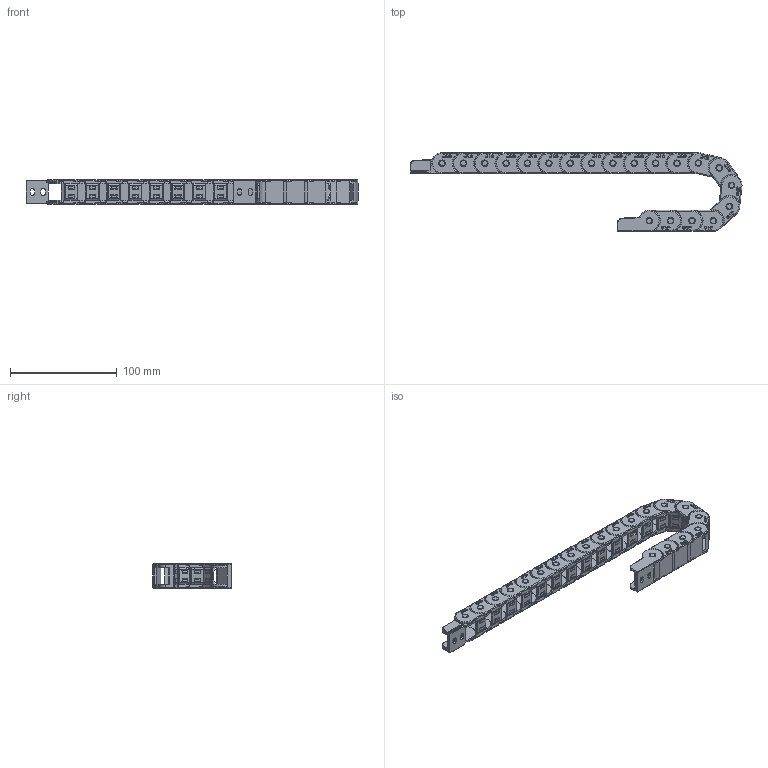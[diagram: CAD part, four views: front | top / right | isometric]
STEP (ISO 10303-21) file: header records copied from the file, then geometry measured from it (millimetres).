
FILE_DESCRIPTION (( 'STEP AP203' ), '1' );
FILE_NAME ('5F-J15BF.1.15N-3D半封闭内开组件图.STEP', '2017-04-05T05:34:03', ( 'china' ), ( 'china' ), 'SwSTEP 2.0', 'SolidWorks 2016', '' );
FILE_SCHEMA (( 'CONFIG_CONTROL_DESIGN' ));
Length unit declared in the file: millimetre
Products named in the file (5): FW-15BF-1-15N-ZT3D; FW5-15BFX15-2; FW15X15-XJT-N3D; FW15X15-XJT-W3D; 5F-J15BF.1.15N-3D半封闭内开组件图
Assembly tree (22 placements, depth 3):
  5F-J15BF.1.15N-3D半封闭内开组件图
    FW5-15BFX15-2  x19
      FW-15BF-1-15N-ZT3D
    FW15X15-XJT-N3D
    FW15X15-XJT-W3D
Bounding box: 310.9 x 73.36 x 24 mm (x, y, z)
Volume: 83427.5 mm3; surface area: 93893.5 mm2
Topology: 21 solids, 21 shells, 6674 faces, 17874 edges, 11692 vertices
Faces by surface type: plane 3472, bspline 1575, cylinder 1213, torus 398, cone 12, sphere 4
Entity records: 32502 total; most frequent: CARTESIAN_POINT 13306, ORIENTED_EDGE 4056, DIRECTION 3223, EDGE_CURVE 2028, LINE 1377, VECTOR 1377, VERTEX_POINT 1322, AXIS2_PLACEMENT_3D 923
